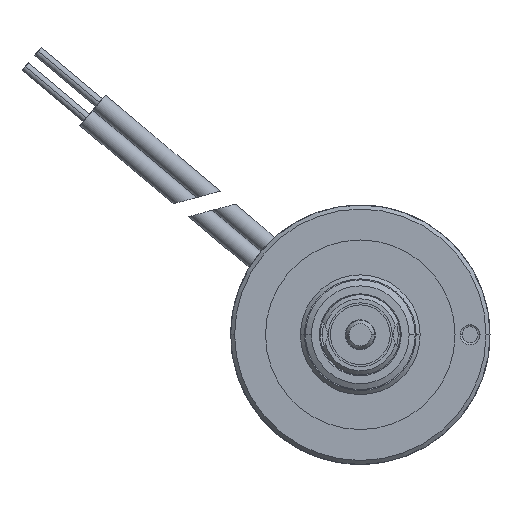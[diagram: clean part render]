
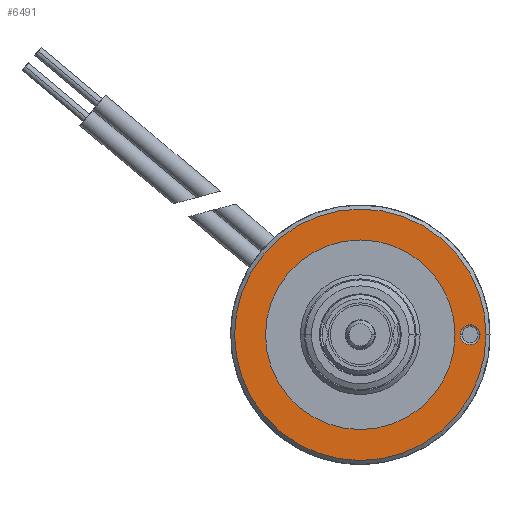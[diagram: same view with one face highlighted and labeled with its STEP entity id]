
A CAD part, left-side view. The second image highlights one B-rep face of the part: STEP entity #6491.
In plain terms, the highlighted planar face has unit normal (-1, 0, 0).
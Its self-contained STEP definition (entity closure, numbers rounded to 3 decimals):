
#802=CARTESIAN_POINT('',(0.,0.,0.));
#803=DIRECTION('',(1.,0.,0.));
#804=DIRECTION('',(0.,1.,0.));
#805=AXIS2_PLACEMENT_3D('',#802,#803,#804);
#817=CARTESIAN_POINT('',(0.,0.,0.));
#818=DIRECTION('',(-1.,0.,0.));
#819=DIRECTION('',(0.,1.,0.));
#820=AXIS2_PLACEMENT_3D('',#817,#818,#819);
#825=CARTESIAN_POINT('',(0.,0.,0.));
#826=DIRECTION('',(-1.,0.,0.));
#827=DIRECTION('',(0.,1.,0.));
#828=AXIS2_PLACEMENT_3D('',#825,#826,#827);
#833=CARTESIAN_POINT('',(0.,0.,0.));
#834=DIRECTION('',(-1.,0.,0.));
#835=DIRECTION('',(0.,-1.,0.));
#836=AXIS2_PLACEMENT_3D('',#833,#834,#835);
#841=CARTESIAN_POINT('',(0.,-5.5,0.));
#842=DIRECTION('',(1.,0.,0.));
#843=DIRECTION('',(0.,1.,0.));
#844=AXIS2_PLACEMENT_3D('',#841,#842,#843);
#849=CARTESIAN_POINT('',(0.,-5.5,0.));
#850=DIRECTION('',(1.,0.,0.));
#851=DIRECTION('',(0.,-1.,0.));
#852=AXIS2_PLACEMENT_3D('',#849,#850,#851);
#5374=CARTESIAN_POINT('',(0.,4.75,0.));
#5376=VERTEX_POINT('',#5374);
#5378=CARTESIAN_POINT('',(0.,-4.75,0.));
#5380=VERTEX_POINT('',#5378);
#5390=CARTESIAN_POINT('',(0.,-5.,0.));
#5391=CARTESIAN_POINT('',(0.,-6.,0.));
#5392=VERTEX_POINT('',#5390);
#5393=VERTEX_POINT('',#5391);
#5418=CARTESIAN_POINT('',(0.,6.3,0.));
#5419=CARTESIAN_POINT('',(0.,-6.3,0.));
#5420=VERTEX_POINT('',#5418);
#5421=VERTEX_POINT('',#5419);
#6470=CARTESIAN_POINT('',(0.,0.,0.));
#6471=DIRECTION('',(-1.,0.,0.));
#6472=DIRECTION('',(0.,1.,0.));
#6473=AXIS2_PLACEMENT_3D('',#6470,#6471,#6472);
#6474=PLANE('',#6473);
#6476=ORIENTED_EDGE('',*,*,#6475,.F.);
#6478=ORIENTED_EDGE('',*,*,#6477,.F.);
#6479=EDGE_LOOP('',(#6476,#6478));
#6480=FACE_OUTER_BOUND('',#6479,.F.);
#6481=ORIENTED_EDGE('',*,*,#6465,.T.);
#6482=ORIENTED_EDGE('',*,*,#6449,.F.);
#6483=EDGE_LOOP('',(#6481,#6482));
#6484=FACE_BOUND('',#6483,.F.);
#6486=ORIENTED_EDGE('',*,*,#6485,.F.);
#6488=ORIENTED_EDGE('',*,*,#6487,.F.);
#6489=EDGE_LOOP('',(#6486,#6488));
#6490=FACE_BOUND('',#6489,.F.);
#6491=ADVANCED_FACE('',(#6480,#6484,#6490),#6474,.T.);
#806=CIRCLE('',#805,4.75);
#821=CIRCLE('',#820,4.75);
#829=CIRCLE('',#828,6.3);
#837=CIRCLE('',#836,6.3);
#845=CIRCLE('',#844,0.5);
#853=CIRCLE('',#852,0.5);
#6449=EDGE_CURVE('',#5376,#5380,#806,.T.);
#6465=EDGE_CURVE('',#5376,#5380,#821,.T.);
#6475=EDGE_CURVE('',#5420,#5421,#829,.T.);
#6477=EDGE_CURVE('',#5421,#5420,#837,.T.);
#6485=EDGE_CURVE('',#5392,#5393,#845,.T.);
#6487=EDGE_CURVE('',#5393,#5392,#853,.T.);
